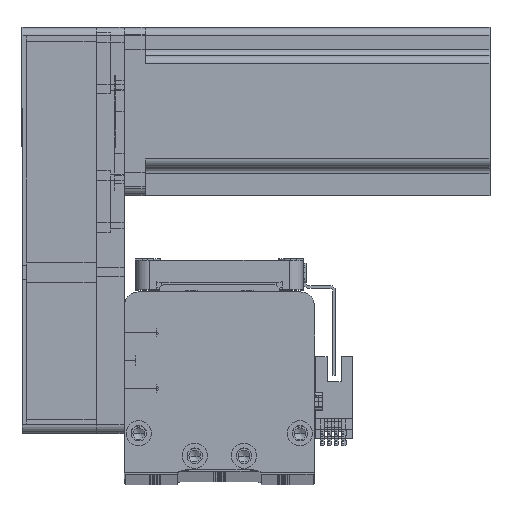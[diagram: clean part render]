
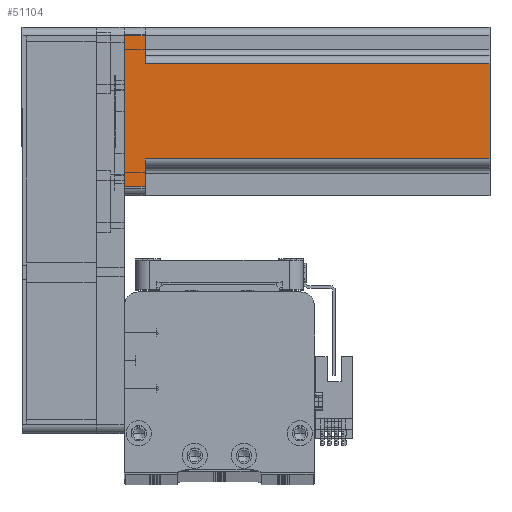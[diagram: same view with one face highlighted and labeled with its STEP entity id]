
A CAD part, top view. The second image highlights one B-rep face of the part: STEP entity #51104.
In plain terms, the highlighted planar face has unit normal (0, 0, 1) as drawn and (0, 1, 0) by its records, which use the part's own axes.
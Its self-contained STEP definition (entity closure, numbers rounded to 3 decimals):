
#995 = CARTESIAN_POINT ( 'NONE',  ( 30., 30., 0. ) ) ;
#1407 = ORIENTED_EDGE ( 'NONE', *, *, #7448, .T. ) ;
#2198 = EDGE_LOOP ( 'NONE', ( #29568, #1407, #55906, #12497, #13136, #54763, #9852, #28070 ) ) ;
#3156 = FACE_OUTER_BOUND ( 'NONE', #2198, .T. ) ;
#5541 = DIRECTION ( 'NONE',  ( 0., 0., 1. ) ) ;
#6081 = VERTEX_POINT ( 'NONE', #51863 ) ;
#6264 = DIRECTION ( 'NONE',  ( 0., -1., 0. ) ) ;
#6969 = CARTESIAN_POINT ( 'NONE',  ( 17., 30., 7.5 ) ) ;
#7364 = EDGE_CURVE ( 'NONE', #32429, #32900, #32149, .T. ) ;
#7448 = EDGE_CURVE ( 'NONE', #32900, #25324, #54874, .T. ) ;
#7560 = EDGE_CURVE ( 'NONE', #41340, #52915, #41785, .T. ) ;
#8194 = EDGE_CURVE ( 'NONE', #35527, #52915, #12035, .T. ) ;
#8886 = EDGE_CURVE ( 'NONE', #35527, #6081, #18255, .T. ) ;
#9066 = CARTESIAN_POINT ( 'NONE',  ( -20., 30., 7.5 ) ) ;
#9415 = EDGE_CURVE ( 'NONE', #43349, #32429, #56637, .T. ) ;
#9852 = ORIENTED_EDGE ( 'NONE', *, *, #48308, .T. ) ;
#10660 = VECTOR ( 'NONE', #27881, 1000. ) ;
#11189 = CARTESIAN_POINT ( 'NONE',  ( -17., 30., 130.7 ) ) ;
#12035 = LINE ( 'NONE', #32311, #10660 ) ;
#12497 = ORIENTED_EDGE ( 'NONE', *, *, #7560, .T. ) ;
#12574 = LINE ( 'NONE', #995, #56663 ) ;
#13136 = ORIENTED_EDGE ( 'NONE', *, *, #8194, .F. ) ;
#14879 = CARTESIAN_POINT ( 'NONE',  ( 17., 30., 130.7 ) ) ;
#15957 = VECTOR ( 'NONE', #17132, 1000. ) ;
#17015 = VECTOR ( 'NONE', #23548, 1000. ) ;
#17132 = DIRECTION ( 'NONE',  ( -1., 0., 0. ) ) ;
#18255 = LINE ( 'NONE', #51183, #38847 ) ;
#19961 = CARTESIAN_POINT ( 'NONE',  ( -27., 30., 130.7 ) ) ;
#20517 = VECTOR ( 'NONE', #48769, 1000. ) ;
#23190 = CARTESIAN_POINT ( 'NONE',  ( -17., 30., 130.7 ) ) ;
#23548 = DIRECTION ( 'NONE',  ( 0., 0., -1. ) ) ;
#24356 = CARTESIAN_POINT ( 'NONE',  ( 27., 30., 7.5 ) ) ;
#25324 = VERTEX_POINT ( 'NONE', #11189 ) ;
#27500 = DIRECTION ( 'NONE',  ( -1., 0., 0. ) ) ;
#27881 = DIRECTION ( 'NONE',  ( -1., 0., 0. ) ) ;
#28070 = ORIENTED_EDGE ( 'NONE', *, *, #9415, .T. ) ;
#29185 = DIRECTION ( 'NONE',  ( 0., 0., -1. ) ) ;
#29568 = ORIENTED_EDGE ( 'NONE', *, *, #7364, .T. ) ;
#30233 = EDGE_CURVE ( 'NONE', #41340, #25324, #51113, .T. ) ;
#31844 = VECTOR ( 'NONE', #37404, 1000. ) ;
#32149 = LINE ( 'NONE', #9066, #20517 ) ;
#32311 = CARTESIAN_POINT ( 'NONE',  ( 20., 30., 7.5 ) ) ;
#32429 = VERTEX_POINT ( 'NONE', #55091 ) ;
#32693 = CARTESIAN_POINT ( 'NONE',  ( 30., 30., 130.7 ) ) ;
#32900 = VERTEX_POINT ( 'NONE', #55022 ) ;
#35527 = VERTEX_POINT ( 'NONE', #24356 ) ;
#36919 = PLANE ( 'NONE',  #54427 ) ;
#37105 = DIRECTION ( 'NONE',  ( 1., 0., 0. ) ) ;
#37404 = DIRECTION ( 'NONE',  ( 0., 0., 1. ) ) ;
#38847 = VECTOR ( 'NONE', #29185, 1000. ) ;
#41340 = VERTEX_POINT ( 'NONE', #43851 ) ;
#41785 = LINE ( 'NONE', #14879, #17015 ) ;
#43215 = VECTOR ( 'NONE', #5541, 1000. ) ;
#43349 = VERTEX_POINT ( 'NONE', #49814 ) ;
#43534 = CARTESIAN_POINT ( 'NONE',  ( 30., 30., 130.7 ) ) ;
#43851 = CARTESIAN_POINT ( 'NONE',  ( 17., 30., 130.7 ) ) ;
#48308 = EDGE_CURVE ( 'NONE', #6081, #43349, #12574, .T. ) ;
#48769 = DIRECTION ( 'NONE',  ( 1., 0., 0. ) ) ;
#49814 = CARTESIAN_POINT ( 'NONE',  ( -27., 30., 0. ) ) ;
#51104 = ADVANCED_FACE ( 'NONE', ( #3156 ), #36919, .F. ) ;
#51113 = LINE ( 'NONE', #43534, #15957 ) ;
#51183 = CARTESIAN_POINT ( 'NONE',  ( 27., 30., 130.7 ) ) ;
#51863 = CARTESIAN_POINT ( 'NONE',  ( 27., 30., 0. ) ) ;
#52915 = VERTEX_POINT ( 'NONE', #6969 ) ;
#54427 = AXIS2_PLACEMENT_3D ( 'NONE', #32693, #6264, #37105 ) ;
#54763 = ORIENTED_EDGE ( 'NONE', *, *, #8886, .T. ) ;
#54874 = LINE ( 'NONE', #23190, #43215 ) ;
#55022 = CARTESIAN_POINT ( 'NONE',  ( -17., 30., 7.5 ) ) ;
#55091 = CARTESIAN_POINT ( 'NONE',  ( -27., 30., 7.5 ) ) ;
#55906 = ORIENTED_EDGE ( 'NONE', *, *, #30233, .F. ) ;
#56637 = LINE ( 'NONE', #19961, #31844 ) ;
#56663 = VECTOR ( 'NONE', #27500, 1000. ) ;
